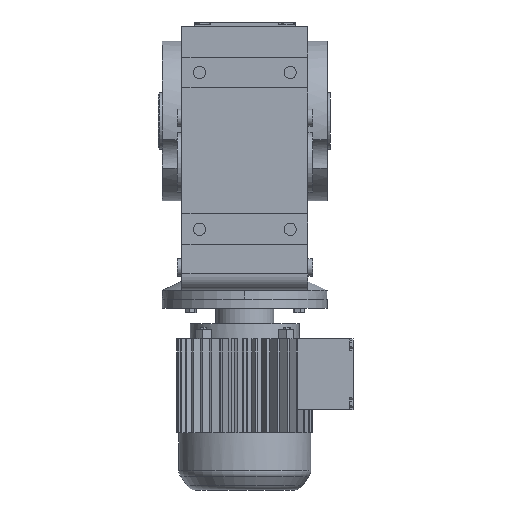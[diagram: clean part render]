
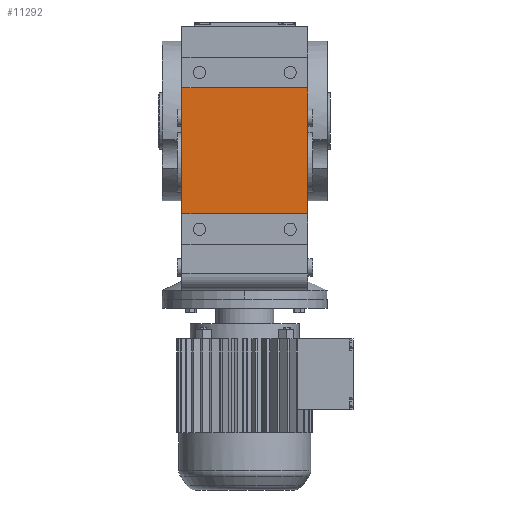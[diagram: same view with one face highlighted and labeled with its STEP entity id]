
A CAD part, front view. The second image highlights one B-rep face of the part: STEP entity #11292.
In plain terms, the highlighted planar face has unit normal (0, -1, 0).
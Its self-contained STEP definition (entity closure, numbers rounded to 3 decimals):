
#890 = PLANE('',#891);
#891 = AXIS2_PLACEMENT_3D('',#892,#893,#894);
#892 = CARTESIAN_POINT('',(-61.,-111.38,-148.35));
#893 = DIRECTION('',(-1.,0.,0.));
#894 = DIRECTION('',(0.,0.,1.));
#5651 = VERTEX_POINT('',#5652);
#5652 = CARTESIAN_POINT('',(-61.,-127.38,-90.));
#5666 = PLANE('',#5667);
#5667 = AXIS2_PLACEMENT_3D('',#5668,#5669,#5670);
#5668 = CARTESIAN_POINT('',(-61.,-127.38,-90.));
#5669 = DIRECTION('',(0.,0.,1.));
#5670 = DIRECTION('',(1.,0.,0.));
#5678 = EDGE_CURVE('',#5679,#5651,#5681,.T.);
#5679 = VERTEX_POINT('',#5680);
#5680 = CARTESIAN_POINT('',(-61.,-127.38,32.));
#5681 = SURFACE_CURVE('',#5682,(#5686,#5693),.PCURVE_S1.);
#5682 = LINE('',#5683,#5684);
#5683 = CARTESIAN_POINT('',(-61.,-127.38,32.));
#5684 = VECTOR('',#5685,1.);
#5685 = DIRECTION('',(0.,0.,-1.));
#5686 = PCURVE('',#890,#5687);
#5687 = DEFINITIONAL_REPRESENTATION('',(#5688),#5692);
#5688 = LINE('',#5689,#5690);
#5689 = CARTESIAN_POINT('',(180.35,-16.));
#5690 = VECTOR('',#5691,1.);
#5691 = DIRECTION('',(-1.,0.));
#5692 = ( GEOMETRIC_REPRESENTATION_CONTEXT(2) 
PARAMETRIC_REPRESENTATION_CONTEXT() REPRESENTATION_CONTEXT('2D SPACE',''
  ) );
#5693 = PCURVE('',#5694,#5699);
#5694 = PLANE('',#5695);
#5695 = AXIS2_PLACEMENT_3D('',#5696,#5697,#5698);
#5696 = CARTESIAN_POINT('',(-61.,-127.38,32.));
#5697 = DIRECTION('',(0.,-1.,0.));
#5698 = DIRECTION('',(0.,0.,-1.));
#5699 = DEFINITIONAL_REPRESENTATION('',(#5700),#5704);
#5700 = LINE('',#5701,#5702);
#5701 = CARTESIAN_POINT('',(0.,0.));
#5702 = VECTOR('',#5703,1.);
#5703 = DIRECTION('',(1.,0.));
#5704 = ( GEOMETRIC_REPRESENTATION_CONTEXT(2) 
PARAMETRIC_REPRESENTATION_CONTEXT() REPRESENTATION_CONTEXT('2D SPACE',''
  ) );
#5722 = PLANE('',#5723);
#5723 = AXIS2_PLACEMENT_3D('',#5724,#5725,#5726);
#5724 = CARTESIAN_POINT('',(-61.,-127.38,32.));
#5725 = DIRECTION('',(0.,0.,-1.));
#5726 = DIRECTION('',(-1.,0.,0.));
#9908 = PLANE('',#9909);
#9909 = AXIS2_PLACEMENT_3D('',#9910,#9911,#9912);
#9910 = CARTESIAN_POINT('',(61.,-111.38,-148.35));
#9911 = DIRECTION('',(-1.,0.,0.));
#9912 = DIRECTION('',(0.,0.,1.));
#10017 = VERTEX_POINT('',#10018);
#10018 = CARTESIAN_POINT('',(61.,-127.38,-90.));
#10039 = EDGE_CURVE('',#5651,#10017,#10040,.T.);
#10040 = SURFACE_CURVE('',#10041,(#10045,#10052),.PCURVE_S1.);
#10041 = LINE('',#10042,#10043);
#10042 = CARTESIAN_POINT('',(-61.,-127.38,-90.));
#10043 = VECTOR('',#10044,1.);
#10044 = DIRECTION('',(1.,0.,0.));
#10045 = PCURVE('',#5666,#10046);
#10046 = DEFINITIONAL_REPRESENTATION('',(#10047),#10051);
#10047 = LINE('',#10048,#10049);
#10048 = CARTESIAN_POINT('',(0.,0.));
#10049 = VECTOR('',#10050,1.);
#10050 = DIRECTION('',(1.,0.));
#10051 = ( GEOMETRIC_REPRESENTATION_CONTEXT(2) 
PARAMETRIC_REPRESENTATION_CONTEXT() REPRESENTATION_CONTEXT('2D SPACE',''
  ) );
#10052 = PCURVE('',#5694,#10053);
#10053 = DEFINITIONAL_REPRESENTATION('',(#10054),#10058);
#10054 = LINE('',#10055,#10056);
#10055 = CARTESIAN_POINT('',(122.,0.));
#10056 = VECTOR('',#10057,1.);
#10057 = DIRECTION('',(0.,1.));
#10058 = ( GEOMETRIC_REPRESENTATION_CONTEXT(2) 
PARAMETRIC_REPRESENTATION_CONTEXT() REPRESENTATION_CONTEXT('2D SPACE',''
  ) );
#11292 = ADVANCED_FACE('',(#11293),#5694,.T.);
#11293 = FACE_BOUND('',#11294,.T.);
#11294 = EDGE_LOOP('',(#11295,#11296,#11319,#11340));
#11295 = ORIENTED_EDGE('',*,*,#10039,.T.);
#11296 = ORIENTED_EDGE('',*,*,#11297,.F.);
#11297 = EDGE_CURVE('',#11298,#10017,#11300,.T.);
#11298 = VERTEX_POINT('',#11299);
#11299 = CARTESIAN_POINT('',(61.,-127.38,32.));
#11300 = SURFACE_CURVE('',#11301,(#11305,#11312),.PCURVE_S1.);
#11301 = LINE('',#11302,#11303);
#11302 = CARTESIAN_POINT('',(61.,-127.38,32.));
#11303 = VECTOR('',#11304,1.);
#11304 = DIRECTION('',(0.,0.,-1.));
#11305 = PCURVE('',#5694,#11306);
#11306 = DEFINITIONAL_REPRESENTATION('',(#11307),#11311);
#11307 = LINE('',#11308,#11309);
#11308 = CARTESIAN_POINT('',(0.,122.));
#11309 = VECTOR('',#11310,1.);
#11310 = DIRECTION('',(1.,0.));
#11311 = ( GEOMETRIC_REPRESENTATION_CONTEXT(2) 
PARAMETRIC_REPRESENTATION_CONTEXT() REPRESENTATION_CONTEXT('2D SPACE',''
  ) );
#11312 = PCURVE('',#9908,#11313);
#11313 = DEFINITIONAL_REPRESENTATION('',(#11314),#11318);
#11314 = LINE('',#11315,#11316);
#11315 = CARTESIAN_POINT('',(180.35,-16.));
#11316 = VECTOR('',#11317,1.);
#11317 = DIRECTION('',(-1.,0.));
#11318 = ( GEOMETRIC_REPRESENTATION_CONTEXT(2) 
PARAMETRIC_REPRESENTATION_CONTEXT() REPRESENTATION_CONTEXT('2D SPACE',''
  ) );
#11319 = ORIENTED_EDGE('',*,*,#11320,.F.);
#11320 = EDGE_CURVE('',#5679,#11298,#11321,.T.);
#11321 = SURFACE_CURVE('',#11322,(#11326,#11333),.PCURVE_S1.);
#11322 = LINE('',#11323,#11324);
#11323 = CARTESIAN_POINT('',(-61.,-127.38,32.));
#11324 = VECTOR('',#11325,1.);
#11325 = DIRECTION('',(1.,0.,0.));
#11326 = PCURVE('',#5694,#11327);
#11327 = DEFINITIONAL_REPRESENTATION('',(#11328),#11332);
#11328 = LINE('',#11329,#11330);
#11329 = CARTESIAN_POINT('',(0.,0.));
#11330 = VECTOR('',#11331,1.);
#11331 = DIRECTION('',(0.,1.));
#11332 = ( GEOMETRIC_REPRESENTATION_CONTEXT(2) 
PARAMETRIC_REPRESENTATION_CONTEXT() REPRESENTATION_CONTEXT('2D SPACE',''
  ) );
#11333 = PCURVE('',#5722,#11334);
#11334 = DEFINITIONAL_REPRESENTATION('',(#11335),#11339);
#11335 = LINE('',#11336,#11337);
#11336 = CARTESIAN_POINT('',(0.,0.));
#11337 = VECTOR('',#11338,1.);
#11338 = DIRECTION('',(-1.,0.));
#11339 = ( GEOMETRIC_REPRESENTATION_CONTEXT(2) 
PARAMETRIC_REPRESENTATION_CONTEXT() REPRESENTATION_CONTEXT('2D SPACE',''
  ) );
#11340 = ORIENTED_EDGE('',*,*,#5678,.T.);
